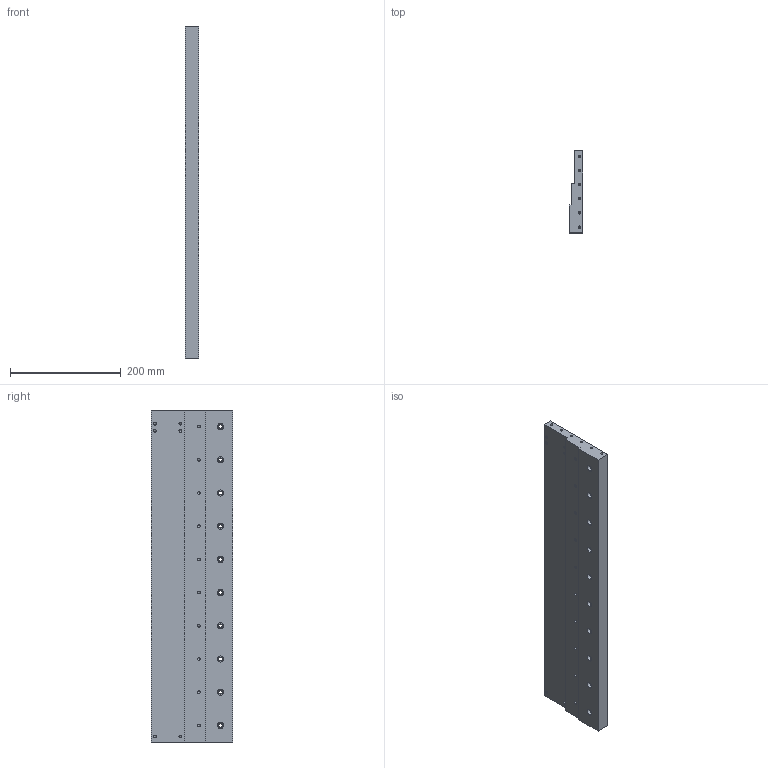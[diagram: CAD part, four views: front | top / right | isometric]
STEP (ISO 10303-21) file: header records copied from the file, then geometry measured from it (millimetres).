
FILE_DESCRIPTION (( 'STEP AP214' ), '1' );
FILE_NAME ('Seitenteil_rechts_2.STEP', '2017-03-12T09:08:45', ( 'C.Loibl@hotmail.com' ), ( '' ), 'SwSTEP 2.0', 'SolidWorks 2015', '' );
FILE_SCHEMA (( 'AUTOMOTIVE_DESIGN' ));
Length unit declared in the file: millimetre
Products named in the file (1): Seitenteil_rechts_2
Bounding box: 25 x 148 x 600 mm (x, y, z)
Volume: 1778519.7 mm3; surface area: 224931.6 mm2
Topology: 1 solids, 1 shells, 148 faces, 364 edges, 212 vertices
Faces by surface type: cylinder 84, cone 44, plane 20
Entity records: 4754 total; most frequent: DIRECTION 810, CARTESIAN_POINT 693, ORIENTED_EDGE 664, EDGE_CURVE 332, AXIS2_PLACEMENT_3D 329, VERTEX_POINT 212, EDGE_LOOP 206, CIRCLE 180
